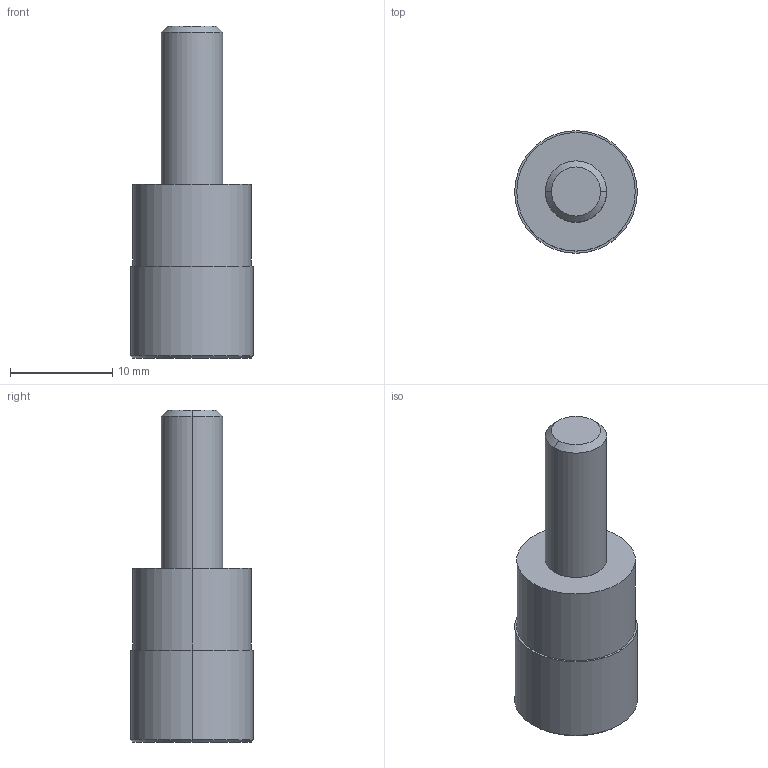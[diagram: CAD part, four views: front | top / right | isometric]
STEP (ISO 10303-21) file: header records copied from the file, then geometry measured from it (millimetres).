
FILE_DESCRIPTION (( 'STEP AP214' ), '1' );
FILE_NAME ('38.344.120_3D-model.step', '2022-02-15T20:44:37', ( '' ), ( '' ), 'SwSTEP 2.0', 'SolidWorks 2020', '' );
FILE_SCHEMA (( 'AUTOMOTIVE_DESIGN' ));
Length unit declared in the file: millimetre
Products named in the file (3): NOCUT-3D^Baugr130; 38.344.120_3D-model; CUT-3D^Baugr130
Assembly tree (2 placements, depth 2):
  38.344.120_3D-model
    CUT-3D^Baugr130
    NOCUT-3D^Baugr130
Bounding box: 12 x 12 x 32.5 mm (x, y, z)
Volume: 2297.7 mm3; surface area: 1349 mm2
Topology: 2 solids, 2 shells, 15 faces, 26 edges, 16 vertices
Faces by surface type: cylinder 6, plane 5, cone 4
Entity records: 486 total; most frequent: DIRECTION 88, CARTESIAN_POINT 65, ORIENTED_EDGE 52, AXIS2_PLACEMENT_3D 39, EDGE_CURVE 26, CIRCLE 16, EDGE_LOOP 16, VERTEX_POINT 16
